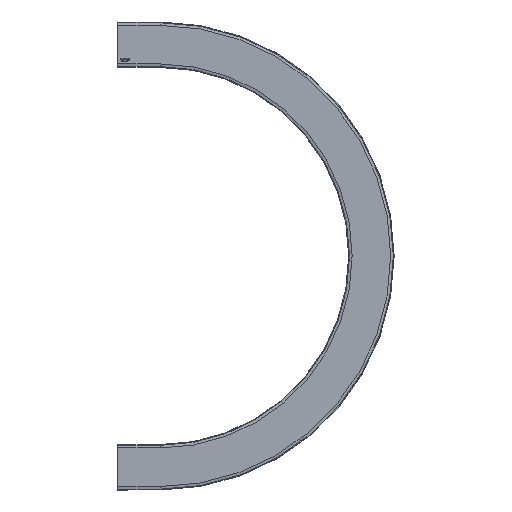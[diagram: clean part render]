
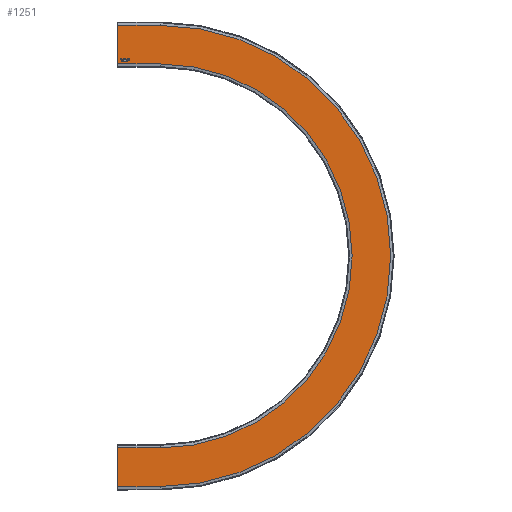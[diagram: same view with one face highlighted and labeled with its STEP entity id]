
A CAD part, top view. The second image highlights one B-rep face of the part: STEP entity #1251.
In plain terms, the highlighted planar face has unit normal (0, 0, 1).
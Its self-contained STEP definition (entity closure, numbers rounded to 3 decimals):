
#243=CARTESIAN_POINT('',(10.621,-29.49,0.0));
#244=VERTEX_POINT('',#243);
#251=CARTESIAN_POINT('',(13.541,-32.563,0.0));
#252=VERTEX_POINT('',#251);
#253=CARTESIAN_POINT('',(13.541,-32.563,0.0));
#254=CARTESIAN_POINT('',(12.676,-32.563,0.0));
#255=CARTESIAN_POINT('',(11.319,-31.731,0.0));
#256=CARTESIAN_POINT('',(10.621,-30.294,0.0));
#257=CARTESIAN_POINT('',(10.621,-29.49,0.0));
#258=QUASI_UNIFORM_CURVE('',2,(#253,#254,#255,#256,#257),.UNSPECIFIED.,.F.,.U.);
#259=EDGE_CURVE('',#252,#244,#258,.T.);
#292=CARTESIAN_POINT('',(16.456,-29.42,0.0));
#293=VERTEX_POINT('',#292);
#294=CARTESIAN_POINT('',(16.456,-29.42,0.0));
#295=CARTESIAN_POINT('',(16.456,-30.346,0.0));
#296=CARTESIAN_POINT('',(15.708,-31.81,0.0));
#297=CARTESIAN_POINT('',(14.331,-32.563,0.0));
#298=CARTESIAN_POINT('',(13.541,-32.563,0.0));
#299=QUASI_UNIFORM_CURVE('',2,(#294,#295,#296,#297,#298),.UNSPECIFIED.,.F.,.U.);
#300=EDGE_CURVE('',#293,#252,#299,.T.);
#333=CARTESIAN_POINT('',(13.541,-26.254,0.0));
#334=VERTEX_POINT('',#333);
#335=CARTESIAN_POINT('',(13.541,-26.254,0.0));
#336=CARTESIAN_POINT('',(14.387,-26.254,0.0));
#337=CARTESIAN_POINT('',(15.745,-27.063,0.0));
#338=CARTESIAN_POINT('',(16.456,-28.504,0.0));
#339=CARTESIAN_POINT('',(16.456,-29.42,0.0));
#340=QUASI_UNIFORM_CURVE('',2,(#335,#336,#337,#338,#339),.UNSPECIFIED.,.F.,.U.);
#341=EDGE_CURVE('',#334,#293,#340,.T.);
#369=CARTESIAN_POINT('',(10.621,-29.49,0.0));
#370=CARTESIAN_POINT('',(10.621,-27.97,0.0));
#371=CARTESIAN_POINT('',(12.253,-26.254,0.0));
#372=CARTESIAN_POINT('',(13.541,-26.254,0.0));
#373=QUASI_UNIFORM_CURVE('',2,(#369,#370,#371,#372),.UNSPECIFIED.,.F.,.U.);
#374=EDGE_CURVE('',#244,#334,#373,.T.);
#413=CARTESIAN_POINT('',(7.208,-32.461,0.0));
#414=VERTEX_POINT('',#413);
#421=CARTESIAN_POINT('',(8.017,-32.461,0.0));
#422=VERTEX_POINT('',#421);
#423=CARTESIAN_POINT('',(8.017,-32.461,0.0));
#424=DIRECTION('',(-1.0,0.0,0.0));
#425=VECTOR('',#424,0.809);
#426=LINE('',#423,#425);
#427=EDGE_CURVE('',#422,#414,#426,.T.);
#452=CARTESIAN_POINT('',(8.017,-27.082,0.0));
#453=VERTEX_POINT('',#452);
#454=CARTESIAN_POINT('',(8.017,-27.082,0.0));
#455=DIRECTION('',(0.0,-1.0,0.0));
#456=VECTOR('',#455,5.379);
#457=LINE('',#454,#456);
#458=EDGE_CURVE('',#453,#422,#457,.T.);
#483=CARTESIAN_POINT('',(10.035,-27.082,0.0));
#484=VERTEX_POINT('',#483);
#485=CARTESIAN_POINT('',(10.035,-27.082,0.0));
#486=DIRECTION('',(-1.0,0.0,0.0));
#487=VECTOR('',#486,2.018);
#488=LINE('',#485,#487);
#489=EDGE_CURVE('',#484,#453,#488,.T.);
#514=CARTESIAN_POINT('',(10.035,-26.361,0.0));
#515=VERTEX_POINT('',#514);
#516=CARTESIAN_POINT('',(10.035,-26.361,0.0));
#517=DIRECTION('',(0.0,-1.0,0.0));
#518=VECTOR('',#517,0.721);
#519=LINE('',#516,#518);
#520=EDGE_CURVE('',#515,#484,#519,.T.);
#545=CARTESIAN_POINT('',(5.2,-26.361,0.0));
#546=VERTEX_POINT('',#545);
#547=CARTESIAN_POINT('',(5.2,-26.361,0.0));
#548=DIRECTION('',(1.0,0.0,0.0));
#549=VECTOR('',#548,4.835);
#550=LINE('',#547,#549);
#551=EDGE_CURVE('',#546,#515,#550,.T.);
#576=CARTESIAN_POINT('',(5.2,-27.082,0.0));
#577=VERTEX_POINT('',#576);
#578=CARTESIAN_POINT('',(5.2,-27.082,0.0));
#579=DIRECTION('',(0.0,1.0,0.0));
#580=VECTOR('',#579,0.721);
#581=LINE('',#578,#580);
#582=EDGE_CURVE('',#577,#546,#581,.T.);
#607=CARTESIAN_POINT('',(7.208,-27.082,0.0));
#608=VERTEX_POINT('',#607);
#609=CARTESIAN_POINT('',(7.208,-27.082,0.0));
#610=DIRECTION('',(-1.0,0.0,0.0));
#611=VECTOR('',#610,2.009);
#612=LINE('',#609,#611);
#613=EDGE_CURVE('',#608,#577,#612,.T.);
#636=CARTESIAN_POINT('',(7.208,-32.461,0.0));
#637=DIRECTION('',(0.0,1.0,0.0));
#638=VECTOR('',#637,5.379);
#639=LINE('',#636,#638);
#640=EDGE_CURVE('',#414,#608,#639,.T.);
#877=CARTESIAN_POINT('',(17.493,-32.461,0.0));
#878=VERTEX_POINT('',#877);
#885=CARTESIAN_POINT('',(18.302,-32.461,0.0));
#886=VERTEX_POINT('',#885);
#887=CARTESIAN_POINT('',(18.302,-32.461,0.0));
#888=DIRECTION('',(-1.0,0.0,0.0));
#889=VECTOR('',#888,0.809);
#890=LINE('',#887,#889);
#891=EDGE_CURVE('',#886,#878,#890,.T.);
#916=CARTESIAN_POINT('',(18.302,-29.983,0.0));
#917=VERTEX_POINT('',#916);
#918=CARTESIAN_POINT('',(18.302,-29.983,0.0));
#919=DIRECTION('',(0.0,-1.0,0.0));
#920=VECTOR('',#919,2.478);
#921=LINE('',#918,#920);
#922=EDGE_CURVE('',#917,#886,#921,.T.);
#947=CARTESIAN_POINT('',(19.869,-29.983,0.0));
#948=VERTEX_POINT('',#947);
#949=CARTESIAN_POINT('',(19.869,-29.983,0.0));
#950=DIRECTION('',(-1.0,0.0,0.0));
#951=VECTOR('',#950,1.567);
#952=LINE('',#949,#951);
#953=EDGE_CURVE('',#948,#917,#952,.T.);
#983=CARTESIAN_POINT('',(22.152,-28.128,0.0));
#984=VERTEX_POINT('',#983);
#985=CARTESIAN_POINT('',(22.152,-28.128,0.0));
#986=CARTESIAN_POINT('',(22.152,-28.904,0.0));
#987=CARTESIAN_POINT('',(21.161,-29.983,0.0));
#988=CARTESIAN_POINT('',(19.869,-29.983,0.0));
#989=QUASI_UNIFORM_CURVE('',2,(#985,#986,#987,#988),.UNSPECIFIED.,.F.,.U.);
#990=EDGE_CURVE('',#984,#948,#989,.T.);
#1023=CARTESIAN_POINT('',(20.724,-26.422,0.0));
#1024=VERTEX_POINT('',#1023);
#1025=CARTESIAN_POINT('',(20.724,-26.422,0.0));
#1026=CARTESIAN_POINT('',(21.175,-26.496,0.0));
#1027=CARTESIAN_POINT('',(21.78,-26.914,0.0));
#1028=CARTESIAN_POINT('',(22.152,-27.672,0.0));
#1029=CARTESIAN_POINT('',(22.152,-28.128,0.0));
#1030=QUASI_UNIFORM_CURVE('',2,(#1025,#1026,#1027,#1028,#1029),.UNSPECIFIED.,.F.,.U.);
#1031=EDGE_CURVE('',#1024,#984,#1030,.T.);
#1058=CARTESIAN_POINT('',(19.794,-26.361,0.0));
#1059=VERTEX_POINT('',#1058);
#1060=CARTESIAN_POINT('',(19.794,-26.361,0.0));
#1061=CARTESIAN_POINT('',(20.403,-26.361,0.0));
#1062=CARTESIAN_POINT('',(20.724,-26.422,0.0));
#1063=QUASI_UNIFORM_CURVE('',2,(#1060,#1061,#1062),.UNSPECIFIED.,.F.,.U.);
#1064=EDGE_CURVE('',#1059,#1024,#1063,.T.);
#1089=CARTESIAN_POINT('',(17.493,-26.361,0.0));
#1090=VERTEX_POINT('',#1089);
#1091=CARTESIAN_POINT('',(17.493,-26.361,0.0));
#1092=DIRECTION('',(1.0,0.0,0.0));
#1093=VECTOR('',#1092,2.301);
#1094=LINE('',#1091,#1093);
#1095=EDGE_CURVE('',#1090,#1059,#1094,.T.);
#1118=CARTESIAN_POINT('',(17.493,-32.461,0.0));
#1119=DIRECTION('',(0.0,1.0,0.0));
#1120=VECTOR('',#1119,6.1);
#1121=LINE('',#1118,#1120);
#1122=EDGE_CURVE('',#878,#1090,#1121,.T.);
#1152=CARTESIAN_POINT('',(0.0,0.0,0.0));
#1153=DIRECTION('',(0.0,0.0,1.0));
#1154=DIRECTION('',(1.0,0.0,0.0));
#1155=AXIS2_PLACEMENT_3D('',#1152,#1153,#1154);
#1156=PLANE('',#1155);
#1157=CARTESIAN_POINT('',(0.0,36.5,0.0));
#1158=VERTEX_POINT('',#1157);
#1159=CARTESIAN_POINT('',(80.0,36.5,0.0));
#1160=VERTEX_POINT('',#1159);
#1161=CARTESIAN_POINT('',(0.0,36.5,0.0));
#1162=DIRECTION('',(1.0,0.0,0.0));
#1163=VECTOR('',#1162,80.0);
#1164=LINE('',#1161,#1163);
#1165=EDGE_CURVE('',#1158,#1160,#1164,.T.);
#1166=ORIENTED_EDGE('',*,*,#1165,.F.);
#1167=CARTESIAN_POINT('',(0.0,-36.5,0.0));
#1168=VERTEX_POINT('',#1167);
#1169=CARTESIAN_POINT('',(0.0,36.5,0.0));
#1170=DIRECTION('',(0.0,-1.0,0.0));
#1171=VECTOR('',#1170,73.0);
#1172=LINE('',#1169,#1171);
#1173=EDGE_CURVE('',#1158,#1168,#1172,.T.);
#1174=ORIENTED_EDGE('',*,*,#1173,.T.);
#1175=CARTESIAN_POINT('',(80.0,-36.5,0.0));
#1176=VERTEX_POINT('',#1175);
#1177=CARTESIAN_POINT('',(0.0,-36.5,0.0));
#1178=DIRECTION('',(1.0,0.0,0.0));
#1179=VECTOR('',#1178,80.0);
#1180=LINE('',#1177,#1179);
#1181=EDGE_CURVE('',#1168,#1176,#1180,.T.);
#1182=ORIENTED_EDGE('',*,*,#1181,.T.);
#1183=CARTESIAN_POINT('',(80.,-763.5,0.0));
#1184=VERTEX_POINT('',#1183);
#1185=CARTESIAN_POINT('',(80.0,-400.0,0.0));
#1186=DIRECTION('',(0.0,0.0,-1.0));
#1187=DIRECTION('',(0.0,1.0,0.0));
#1188=AXIS2_PLACEMENT_3D('',#1185,#1186,#1187);
#1189=CIRCLE('',#1188,363.5);
#1190=EDGE_CURVE('',#1176,#1184,#1189,.T.);
#1191=ORIENTED_EDGE('',*,*,#1190,.T.);
#1192=CARTESIAN_POINT('',(0.0,-763.5,0.0));
#1193=VERTEX_POINT('',#1192);
#1194=CARTESIAN_POINT('',(80.,-763.5,0.0));
#1195=DIRECTION('',(-1.0,0.0,0.0));
#1196=VECTOR('',#1195,80.);
#1197=LINE('',#1194,#1196);
#1198=EDGE_CURVE('',#1184,#1193,#1197,.T.);
#1199=ORIENTED_EDGE('',*,*,#1198,.T.);
#1200=CARTESIAN_POINT('',(0.0,-836.5,0.0));
#1201=VERTEX_POINT('',#1200);
#1202=CARTESIAN_POINT('',(0.,-763.5,0.0));
#1203=DIRECTION('',(0.0,-1.0,0.0));
#1204=VECTOR('',#1203,73.);
#1205=LINE('',#1202,#1204);
#1206=EDGE_CURVE('',#1193,#1201,#1205,.T.);
#1207=ORIENTED_EDGE('',*,*,#1206,.T.);
#1208=CARTESIAN_POINT('',(80.,-836.5,0.0));
#1209=VERTEX_POINT('',#1208);
#1210=CARTESIAN_POINT('',(80.,-836.5,0.0));
#1211=DIRECTION('',(-1.0,0.0,0.0));
#1212=VECTOR('',#1211,80.);
#1213=LINE('',#1210,#1212);
#1214=EDGE_CURVE('',#1209,#1201,#1213,.T.);
#1215=ORIENTED_EDGE('',*,*,#1214,.F.);
#1216=CARTESIAN_POINT('',(80.0,-400.0,0.0));
#1217=DIRECTION('',(0.0,0.0,-1.0));
#1218=DIRECTION('',(0.0,1.0,0.0));
#1219=AXIS2_PLACEMENT_3D('',#1216,#1217,#1218);
#1220=CIRCLE('',#1219,436.5);
#1221=EDGE_CURVE('',#1160,#1209,#1220,.T.);
#1222=ORIENTED_EDGE('',*,*,#1221,.F.);
#1223=EDGE_LOOP('',(#1166,#1174,#1182,#1191,#1199,#1207,#1215,#1222));
#1224=FACE_OUTER_BOUND('',#1223,.T.);
#1225=ORIENTED_EDGE('',*,*,#259,.T.);
#1226=ORIENTED_EDGE('',*,*,#374,.T.);
#1227=ORIENTED_EDGE('',*,*,#341,.T.);
#1228=ORIENTED_EDGE('',*,*,#300,.T.);
#1229=EDGE_LOOP('',(#1225,#1226,#1227,#1228));
#1230=FACE_BOUND('',#1229,.T.);
#1231=ORIENTED_EDGE('',*,*,#427,.T.);
#1232=ORIENTED_EDGE('',*,*,#640,.T.);
#1233=ORIENTED_EDGE('',*,*,#613,.T.);
#1234=ORIENTED_EDGE('',*,*,#582,.T.);
#1235=ORIENTED_EDGE('',*,*,#551,.T.);
#1236=ORIENTED_EDGE('',*,*,#520,.T.);
#1237=ORIENTED_EDGE('',*,*,#489,.T.);
#1238=ORIENTED_EDGE('',*,*,#458,.T.);
#1239=EDGE_LOOP('',(#1231,#1232,#1233,#1234,#1235,#1236,#1237,#1238));
#1240=FACE_BOUND('',#1239,.T.);
#1241=ORIENTED_EDGE('',*,*,#891,.T.);
#1242=ORIENTED_EDGE('',*,*,#1122,.T.);
#1243=ORIENTED_EDGE('',*,*,#1095,.T.);
#1244=ORIENTED_EDGE('',*,*,#1064,.T.);
#1245=ORIENTED_EDGE('',*,*,#1031,.T.);
#1246=ORIENTED_EDGE('',*,*,#990,.T.);
#1247=ORIENTED_EDGE('',*,*,#953,.T.);
#1248=ORIENTED_EDGE('',*,*,#922,.T.);
#1249=EDGE_LOOP('',(#1241,#1242,#1243,#1244,#1245,#1246,#1247,#1248));
#1250=FACE_BOUND('',#1249,.T.);
#1251=ADVANCED_FACE('',(#1224,#1230,#1240,#1250),#1156,.T.);
